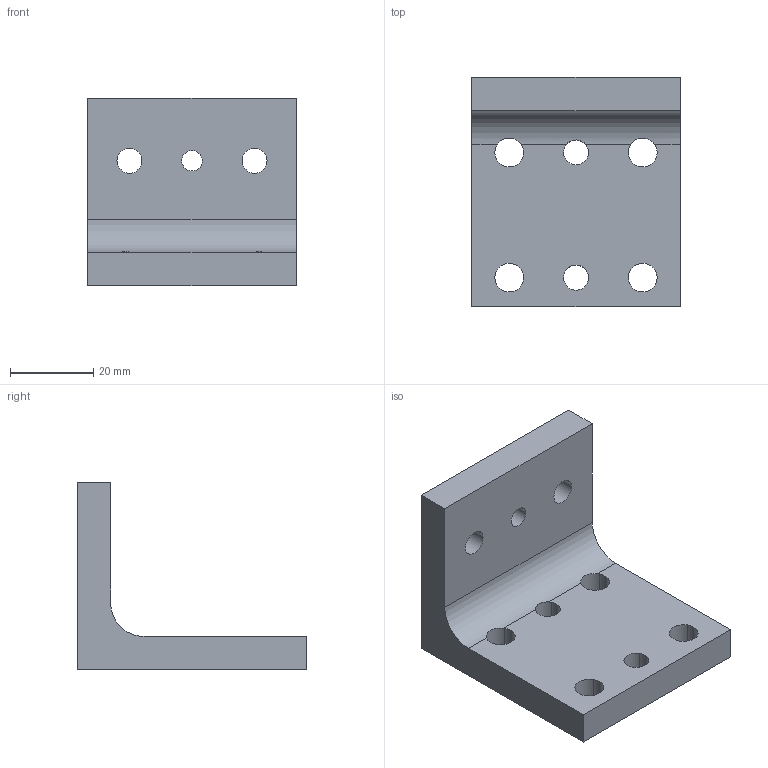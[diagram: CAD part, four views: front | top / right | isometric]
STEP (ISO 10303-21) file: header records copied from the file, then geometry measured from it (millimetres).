
FILE_DESCRIPTION(('STEP AP214'),'1');
FILE_NAME('EGT278_1712651_STIFTANBINDUNG_KER_ZU_EGT160.CATPart.stp','2015-09-14T13:16:17',('3D-Tool'),(' '),'Spatial InterOp 3D',' ',' ');
FILE_SCHEMA(('automotive_design'));
Length unit declared in the file: millimetre
Products named in the file (1): EGT278_1712651_STIFTANBINDUNG_KER_ZU_EGT160|PartBody|Funktionsteil
Bounding box: 50 x 55 x 45 mm (x, y, z)
Volume: 35227.2 mm3; surface area: 12186.2 mm2
Topology: 1 solids, 1 shells, 45 faces, 144 edges, 98 vertices
Faces by surface type: cylinder 37, plane 8
Entity records: 2103 total; most frequent: CARTESIAN_POINT 327, DIRECTION 316, ORIENTED_EDGE 288, EDGE_CURVE 144, AXIS2_PLACEMENT_3D 129, VERTEX_POINT 98, CIRCLE 83, EDGE_LOOP 60
